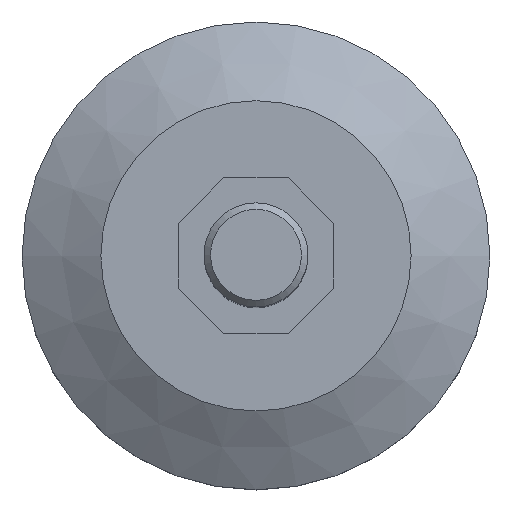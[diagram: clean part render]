
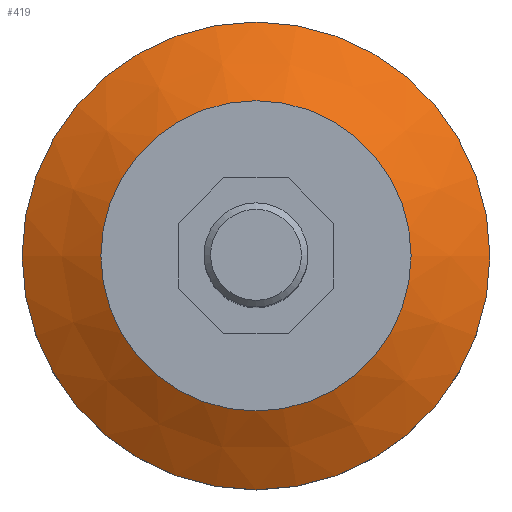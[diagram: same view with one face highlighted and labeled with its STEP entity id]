
A CAD part, top view. The second image highlights one B-rep face of the part: STEP entity #419.
In plain terms, the highlighted conical face has half-angle 60 degrees and reference radius 36 mm.
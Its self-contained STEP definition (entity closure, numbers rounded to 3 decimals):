
#392=CARTESIAN_POINT('',(0.0,0.0,6.));
#393=DIRECTION('',(0.0,0.0,-1.0));
#394=DIRECTION('',(-1.0,0.0,0.0));
#395=AXIS2_PLACEMENT_3D('',#392,#393,#394);
#396=CONICAL_SURFACE('',#395,36.0,60.);
#397=CARTESIAN_POINT('',(23.876,0.,13.));
#398=VERTEX_POINT('',#397);
#399=CARTESIAN_POINT('',(0.0,0.0,13.));
#400=DIRECTION('',(0.0,0.0,-1.0));
#401=DIRECTION('',(-1.0,0.0,0.0));
#402=AXIS2_PLACEMENT_3D('',#399,#400,#401);
#403=CIRCLE('',#402,23.876);
#404=EDGE_CURVE('',#398,#398,#403,.T.);
#405=ORIENTED_EDGE('',*,*,#404,.T.);
#406=EDGE_LOOP('',(#405));
#407=FACE_OUTER_BOUND('',#406,.T.);
#408=CARTESIAN_POINT('',(36.0,0.,6.));
#409=VERTEX_POINT('',#408);
#410=CARTESIAN_POINT('',(0.0,0.0,6.));
#411=DIRECTION('',(0.0,0.0,-1.0));
#412=DIRECTION('',(-1.0,0.0,0.0));
#413=AXIS2_PLACEMENT_3D('',#410,#411,#412);
#414=CIRCLE('',#413,36.0);
#415=EDGE_CURVE('',#409,#409,#414,.T.);
#416=ORIENTED_EDGE('',*,*,#415,.F.);
#417=EDGE_LOOP('',(#416));
#418=FACE_BOUND('',#417,.T.);
#419=ADVANCED_FACE('',(#407,#418),#396,.T.);
